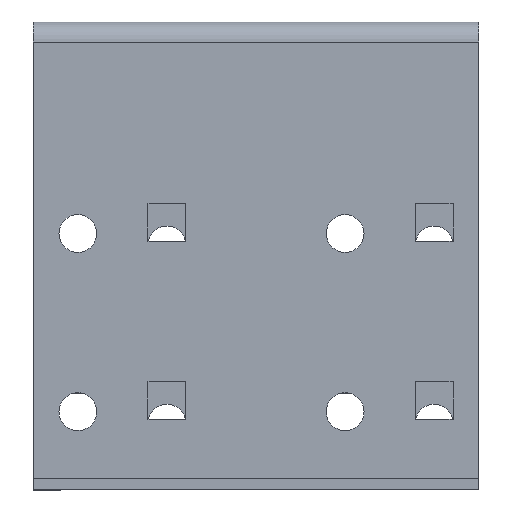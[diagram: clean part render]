
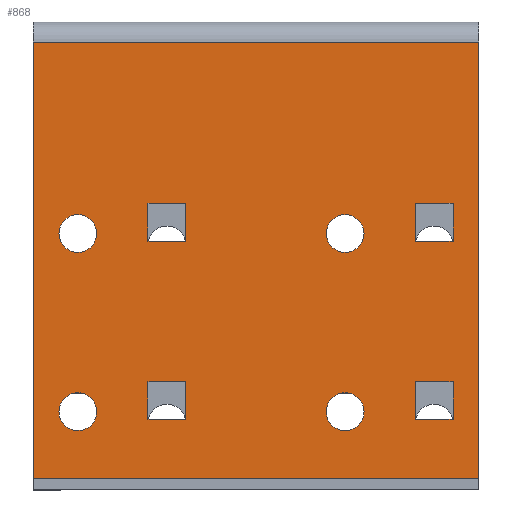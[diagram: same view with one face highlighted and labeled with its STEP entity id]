
A CAD part, top view. The second image highlights one B-rep face of the part: STEP entity #868.
In plain terms, the highlighted planar face has unit normal (0, 0, 1).
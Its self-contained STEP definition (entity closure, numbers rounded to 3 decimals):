
#23=FACE_BOUND('',#104,.T.);
#24=FACE_BOUND('',#105,.T.);
#25=FACE_BOUND('',#106,.T.);
#26=FACE_BOUND('',#107,.T.);
#27=FACE_BOUND('',#108,.T.);
#28=FACE_BOUND('',#109,.T.);
#29=FACE_BOUND('',#110,.T.);
#30=FACE_BOUND('',#111,.T.);
#57=FACE_OUTER_BOUND('',#103,.T.);
#103=EDGE_LOOP('',(#606,#607,#608,#609));
#104=EDGE_LOOP('',(#610));
#105=EDGE_LOOP('',(#611));
#106=EDGE_LOOP('',(#612));
#107=EDGE_LOOP('',(#613));
#108=EDGE_LOOP('',(#614,#615,#616,#617));
#109=EDGE_LOOP('',(#618,#619,#620,#621));
#110=EDGE_LOOP('',(#622,#623,#624,#625));
#111=EDGE_LOOP('',(#626,#627,#628,#629));
#170=LINE('',#1239,#272);
#174=LINE('',#1246,#276);
#175=LINE('',#1249,#277);
#176=LINE('',#1250,#278);
#177=LINE('',#1261,#279);
#178=LINE('',#1263,#280);
#179=LINE('',#1265,#281);
#180=LINE('',#1266,#282);
#181=LINE('',#1269,#283);
#182=LINE('',#1271,#284);
#183=LINE('',#1273,#285);
#184=LINE('',#1274,#286);
#185=LINE('',#1277,#287);
#186=LINE('',#1279,#288);
#187=LINE('',#1281,#289);
#188=LINE('',#1282,#290);
#189=LINE('',#1285,#291);
#190=LINE('',#1287,#292);
#191=LINE('',#1289,#293);
#192=LINE('',#1290,#294);
#272=VECTOR('',#1002,100.);
#276=VECTOR('',#1008,98.);
#277=VECTOR('',#1011,100.);
#278=VECTOR('',#1012,98.);
#279=VECTOR('',#1021,8.5);
#280=VECTOR('',#1022,8.5);
#281=VECTOR('',#1023,8.5);
#282=VECTOR('',#1024,8.5);
#283=VECTOR('',#1025,8.5);
#284=VECTOR('',#1026,8.5);
#285=VECTOR('',#1027,8.5);
#286=VECTOR('',#1028,8.5);
#287=VECTOR('',#1029,8.5);
#288=VECTOR('',#1030,8.5);
#289=VECTOR('',#1031,8.5);
#290=VECTOR('',#1032,8.5);
#291=VECTOR('',#1033,8.5);
#292=VECTOR('',#1034,8.5);
#293=VECTOR('',#1035,8.5);
#294=VECTOR('',#1036,8.5);
#372=CIRCLE('',#921,4.25);
#373=CIRCLE('',#922,4.25);
#374=CIRCLE('',#923,4.25);
#375=CIRCLE('',#924,4.25);
#389=VERTEX_POINT('',#1223);
#392=VERTEX_POINT('',#1230);
#395=VERTEX_POINT('',#1244);
#396=VERTEX_POINT('',#1248);
#397=VERTEX_POINT('',#1251);
#398=VERTEX_POINT('',#1253);
#399=VERTEX_POINT('',#1255);
#400=VERTEX_POINT('',#1257);
#401=VERTEX_POINT('',#1259);
#402=VERTEX_POINT('',#1260);
#403=VERTEX_POINT('',#1262);
#404=VERTEX_POINT('',#1264);
#405=VERTEX_POINT('',#1267);
#406=VERTEX_POINT('',#1268);
#407=VERTEX_POINT('',#1270);
#408=VERTEX_POINT('',#1272);
#409=VERTEX_POINT('',#1275);
#410=VERTEX_POINT('',#1276);
#411=VERTEX_POINT('',#1278);
#412=VERTEX_POINT('',#1280);
#413=VERTEX_POINT('',#1283);
#414=VERTEX_POINT('',#1284);
#415=VERTEX_POINT('',#1286);
#416=VERTEX_POINT('',#1288);
#476=EDGE_CURVE('',#389,#392,#170,.T.);
#480=EDGE_CURVE('',#395,#392,#174,.T.);
#481=EDGE_CURVE('',#396,#395,#175,.T.);
#482=EDGE_CURVE('',#389,#396,#176,.T.);
#483=EDGE_CURVE('',#397,#397,#372,.T.);
#484=EDGE_CURVE('',#398,#398,#373,.T.);
#485=EDGE_CURVE('',#399,#399,#374,.T.);
#486=EDGE_CURVE('',#400,#400,#375,.T.);
#487=EDGE_CURVE('',#401,#402,#177,.T.);
#488=EDGE_CURVE('',#402,#403,#178,.T.);
#489=EDGE_CURVE('',#403,#404,#179,.T.);
#490=EDGE_CURVE('',#404,#401,#180,.T.);
#491=EDGE_CURVE('',#405,#406,#181,.T.);
#492=EDGE_CURVE('',#406,#407,#182,.T.);
#493=EDGE_CURVE('',#407,#408,#183,.T.);
#494=EDGE_CURVE('',#408,#405,#184,.T.);
#495=EDGE_CURVE('',#409,#410,#185,.T.);
#496=EDGE_CURVE('',#410,#411,#186,.T.);
#497=EDGE_CURVE('',#411,#412,#187,.T.);
#498=EDGE_CURVE('',#412,#409,#188,.T.);
#499=EDGE_CURVE('',#413,#414,#189,.T.);
#500=EDGE_CURVE('',#414,#415,#190,.T.);
#501=EDGE_CURVE('',#415,#416,#191,.T.);
#502=EDGE_CURVE('',#416,#413,#192,.T.);
#606=ORIENTED_EDGE('',*,*,#476,.T.);
#607=ORIENTED_EDGE('',*,*,#480,.F.);
#608=ORIENTED_EDGE('',*,*,#481,.F.);
#609=ORIENTED_EDGE('',*,*,#482,.F.);
#610=ORIENTED_EDGE('',*,*,#483,.T.);
#611=ORIENTED_EDGE('',*,*,#484,.T.);
#612=ORIENTED_EDGE('',*,*,#485,.T.);
#613=ORIENTED_EDGE('',*,*,#486,.T.);
#614=ORIENTED_EDGE('',*,*,#487,.T.);
#615=ORIENTED_EDGE('',*,*,#488,.T.);
#616=ORIENTED_EDGE('',*,*,#489,.T.);
#617=ORIENTED_EDGE('',*,*,#490,.T.);
#618=ORIENTED_EDGE('',*,*,#491,.T.);
#619=ORIENTED_EDGE('',*,*,#492,.T.);
#620=ORIENTED_EDGE('',*,*,#493,.T.);
#621=ORIENTED_EDGE('',*,*,#494,.T.);
#622=ORIENTED_EDGE('',*,*,#495,.T.);
#623=ORIENTED_EDGE('',*,*,#496,.T.);
#624=ORIENTED_EDGE('',*,*,#497,.T.);
#625=ORIENTED_EDGE('',*,*,#498,.T.);
#626=ORIENTED_EDGE('',*,*,#499,.T.);
#627=ORIENTED_EDGE('',*,*,#500,.T.);
#628=ORIENTED_EDGE('',*,*,#501,.T.);
#629=ORIENTED_EDGE('',*,*,#502,.T.);
#829=PLANE('',#920);
#868=ADVANCED_FACE('',(#57,#23,#24,#25,#26,#27,#28,#29,#30),#829,.T.);
#920=AXIS2_PLACEMENT_3D('',#1247,#1009,#1010);
#921=AXIS2_PLACEMENT_3D('',#1252,#1013,#1014);
#922=AXIS2_PLACEMENT_3D('',#1254,#1015,#1016);
#923=AXIS2_PLACEMENT_3D('',#1256,#1017,#1018);
#924=AXIS2_PLACEMENT_3D('',#1258,#1019,#1020);
#1002=DIRECTION('',(-1.,0.,0.));
#1008=DIRECTION('',(0.,1.,0.));
#1009=DIRECTION('center_axis',(0.,0.,1.));
#1010=DIRECTION('ref_axis',(1.,0.,0.));
#1011=DIRECTION('',(-1.,0.,0.));
#1012=DIRECTION('',(0.,-1.,0.));
#1013=DIRECTION('center_axis',(0.,0.,-1.));
#1014=DIRECTION('ref_axis',(1.,0.,0.));
#1015=DIRECTION('center_axis',(0.,0.,-1.));
#1016=DIRECTION('ref_axis',(1.,0.,0.));
#1017=DIRECTION('center_axis',(0.,0.,-1.));
#1018=DIRECTION('ref_axis',(1.,0.,0.));
#1019=DIRECTION('center_axis',(0.,0.,-1.));
#1020=DIRECTION('ref_axis',(1.,0.,0.));
#1021=DIRECTION('',(0.,-1.,0.));
#1022=DIRECTION('',(-1.,0.,0.));
#1023=DIRECTION('',(0.,1.,0.));
#1024=DIRECTION('',(1.,0.,0.));
#1025=DIRECTION('',(0.,-1.,0.));
#1026=DIRECTION('',(-1.,0.,0.));
#1027=DIRECTION('',(0.,1.,0.));
#1028=DIRECTION('',(1.,0.,0.));
#1029=DIRECTION('',(0.,-1.,0.));
#1030=DIRECTION('',(-1.,0.,0.));
#1031=DIRECTION('',(0.,1.,0.));
#1032=DIRECTION('',(1.,0.,0.));
#1033=DIRECTION('',(0.,-1.,0.));
#1034=DIRECTION('',(-1.,0.,0.));
#1035=DIRECTION('',(0.,1.,0.));
#1036=DIRECTION('',(1.,0.,0.));
#1223=CARTESIAN_POINT('',(50.,-23.,2.5));
#1230=CARTESIAN_POINT('',(-50.,-23.,2.5));
#1239=CARTESIAN_POINT('',(-25.,-23.,2.5));
#1244=CARTESIAN_POINT('',(-50.,-121.,2.5));
#1246=CARTESIAN_POINT('',(-50.,22.,2.5));
#1247=CARTESIAN_POINT('Origin',(0.,-36.302,
2.5));
#1248=CARTESIAN_POINT('',(50.,-121.,2.5));
#1249=CARTESIAN_POINT('',(-50.,-121.,2.5));
#1250=CARTESIAN_POINT('',(50.,-121.,2.5));
#1251=CARTESIAN_POINT('',(-35.75,-106.,2.5));
#1252=CARTESIAN_POINT('Origin',(-40.,-106.,2.5));
#1253=CARTESIAN_POINT('',(24.25,-106.,2.5));
#1254=CARTESIAN_POINT('Origin',(20.,-106.,2.5));
#1255=CARTESIAN_POINT('',(24.25,-66.,2.5));
#1256=CARTESIAN_POINT('Origin',(20.,-66.,2.5));
#1257=CARTESIAN_POINT('',(-35.75,-66.,2.5));
#1258=CARTESIAN_POINT('Origin',(-40.,-66.,2.5));
#1259=CARTESIAN_POINT('',(44.25,-59.25,2.5));
#1260=CARTESIAN_POINT('',(44.25,-67.75,2.5));
#1261=CARTESIAN_POINT('',(44.25,-47.776,2.5));
#1262=CARTESIAN_POINT('',(35.75,-67.75,2.5));
#1263=CARTESIAN_POINT('',(22.125,-67.75,2.5));
#1264=CARTESIAN_POINT('',(35.75,-59.25,2.5));
#1265=CARTESIAN_POINT('',(35.75,-52.026,2.5));
#1266=CARTESIAN_POINT('',(17.875,-59.25,2.5));
#1267=CARTESIAN_POINT('',(-15.75,-99.25,2.5));
#1268=CARTESIAN_POINT('',(-15.75,-107.75,2.5));
#1269=CARTESIAN_POINT('',(-15.75,-67.776,2.5));
#1270=CARTESIAN_POINT('',(-24.25,-107.75,2.5));
#1271=CARTESIAN_POINT('',(-7.875,-107.75,2.5));
#1272=CARTESIAN_POINT('',(-24.25,-99.25,2.5));
#1273=CARTESIAN_POINT('',(-24.25,-72.026,2.5));
#1274=CARTESIAN_POINT('',(-12.125,-99.25,2.5));
#1275=CARTESIAN_POINT('',(44.25,-99.25,2.5));
#1276=CARTESIAN_POINT('',(44.25,-107.75,2.5));
#1277=CARTESIAN_POINT('',(44.25,-67.776,2.5));
#1278=CARTESIAN_POINT('',(35.75,-107.75,2.5));
#1279=CARTESIAN_POINT('',(22.125,-107.75,2.5));
#1280=CARTESIAN_POINT('',(35.75,-99.25,2.5));
#1281=CARTESIAN_POINT('',(35.75,-72.026,2.5));
#1282=CARTESIAN_POINT('',(17.875,-99.25,2.5));
#1283=CARTESIAN_POINT('',(-15.75,-59.25,2.5));
#1284=CARTESIAN_POINT('',(-15.75,-67.75,2.5));
#1285=CARTESIAN_POINT('',(-15.75,-47.776,2.5));
#1286=CARTESIAN_POINT('',(-24.25,-67.75,2.5));
#1287=CARTESIAN_POINT('',(-7.875,-67.75,2.5));
#1288=CARTESIAN_POINT('',(-24.25,-59.25,2.5));
#1289=CARTESIAN_POINT('',(-24.25,-52.026,2.5));
#1290=CARTESIAN_POINT('',(-12.125,-59.25,2.5));
